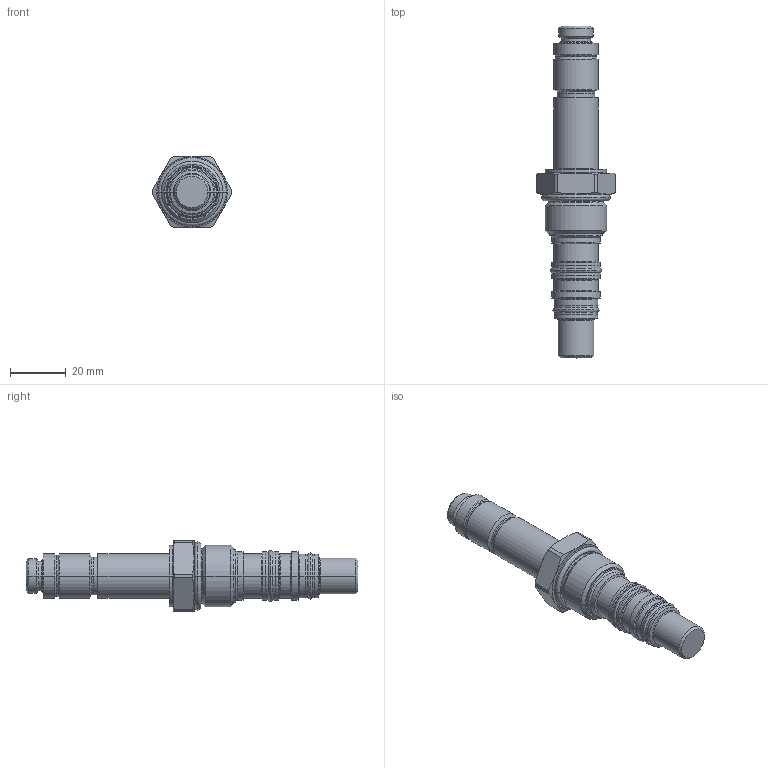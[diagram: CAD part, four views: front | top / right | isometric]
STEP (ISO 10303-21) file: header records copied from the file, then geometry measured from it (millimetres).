
FILE_DESCRIPTION((''),'2;1');
FILE_NAME('5003394_SW0001','2009-03-03T',('JCS'),(''),'PRO/ENGINEER BY PARAMETRIC TECHNOLOGY CORPORATION, 2008010','PRO/ENGINEER BY PARAMETRIC TECHNOLOGY CORPORATION, 2008010','');
FILE_SCHEMA(('CONFIG_CONTROL_DESIGN'));
Length unit declared in the file: inch
Products named in the file (1): 5003394_SW0001
Bounding box: 28.57 x 119.56 x 25.4 mm (x, y, z)
Volume: 28211.6 mm3; surface area: 9565 mm2
Topology: 4 solids, 4 shells, 188 faces, 392 edges, 224 vertices
Faces by surface type: cylinder 58, cone 54, torus 26, plane 26, revolution 24
Entity records: 5464 total; most frequent: CARTESIAN_POINT 1346, DIRECTION 928, ORIENTED_EDGE 784, AXIS2_PLACEMENT_3D 396, EDGE_CURVE 392, CIRCLE 232, VERTEX_POINT 224, EDGE_LOOP 206
